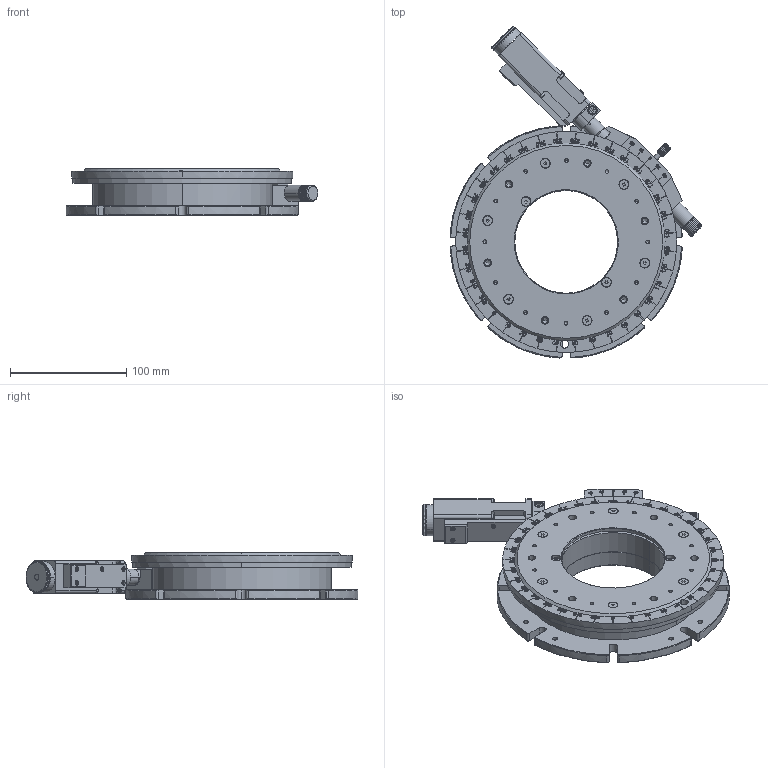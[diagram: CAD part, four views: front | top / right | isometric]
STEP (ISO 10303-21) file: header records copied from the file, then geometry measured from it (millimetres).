
FILE_DESCRIPTION (( 'STEP AP203' ), '1' );
FILE_NAME ('8MR170-190.STEP', '2008-10-01T17:25:18', ( 'Darius' ), ( '' ), 'SwSTEP 2.0', 'SolidWorks 2003240', '' );
FILE_SCHEMA (( 'CONFIG_CONTROL_DESIGN' ));
Length unit declared in the file: millimetre
Products named in the file (1): 8MR170-190
Bounding box: 216.52 x 285.6 x 40 mm (x, y, z)
Volume: 806549.9 mm3; surface area: 164335.2 mm2
Topology: 1 solids, 53 shells, 4277 faces, 11343 edges, 7344 vertices
Faces by surface type: plane 1816, bspline 1176, cylinder 933, cone 352
Entity records: 163378 total; most frequent: CARTESIAN_POINT 65001, ORIENTED_EDGE 22442, DIRECTION 16864, EDGE_CURVE 11221, VERTEX_POINT 7344, LINE 5678, VECTOR 5678, AXIS2_PLACEMENT_3D 5593
